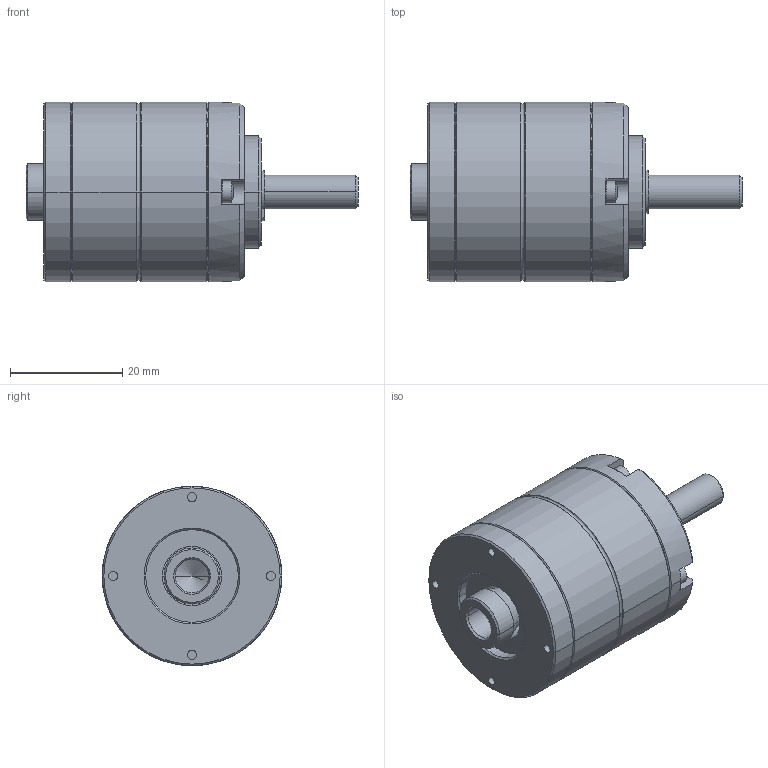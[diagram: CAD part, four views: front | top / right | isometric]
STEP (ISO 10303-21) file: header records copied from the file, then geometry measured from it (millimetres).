
FILE_DESCRIPTION((''),'2;1');
FILE_NAME('IMS32_PRO_2_STAGE_ASM','2024-09-02T13:25:32',('mhummel'),(''),'CREO PARAMETRIC BY PTC INC, 2020184','CREO PARAMETRIC BY PTC INC, 2020184','');
FILE_SCHEMA(('AUTOMOTIVE_DESIGN { 1 0 10303 214 1 1 1 1 }'));
Length unit declared in the file: millimetre
Products named in the file (14): IMS32_PRO_BEARING_FLANGE; IMS32_PRO_BALL_BEARING; IMS32_PRO_RETAINING_RING_J; IMS32_PRO_RING_GEAR_2_STAGE; IMS32_PRO_MOTOR_FLANGE; IMS32_PRO_SHIM_RING; IMS32_PRO_SHAFT_RAW_AF0; IMS32_PRO_SHAFT_ASM; IMS32_PRO_RETAINING_RING_A; IMS32_PRO_THRUST_WASHER_1_STAGE; IMS32_PRO_SCREW_2_STAGE; IMS32_PRO_PINION_LONG; IMS32_PRO_PINION_SHORT; IMS32_PRO_2_STAGE_ASM
Assembly tree (17 placements, depth 3):
  IMS32_PRO_2_STAGE_ASM
    IMS32_PRO_BEARING_FLANGE
    IMS32_PRO_BALL_BEARING  x2
    IMS32_PRO_RETAINING_RING_J
    IMS32_PRO_RING_GEAR_2_STAGE
    IMS32_PRO_MOTOR_FLANGE
    IMS32_PRO_SHIM_RING
    IMS32_PRO_SHAFT_ASM
      IMS32_PRO_SHAFT_RAW_AF0
    IMS32_PRO_RETAINING_RING_A
    IMS32_PRO_THRUST_WASHER_1_STAGE
    IMS32_PRO_SCREW_2_STAGE  x4
    IMS32_PRO_PINION_LONG
    IMS32_PRO_PINION_SHORT
Bounding box: 59.15 x 32 x 32 mm (x, y, z)
Volume: 21068.9 mm3; surface area: 17768.1 mm2
Topology: 20 solids, 22 shells, 460 faces, 1008 edges, 605 vertices
Faces by surface type: cylinder 198, plane 102, cone 92, torus 60, sphere 8
Entity records: 12172 total; most frequent: DIRECTION 1802, CARTESIAN_POINT 1546, ORIENTED_EDGE 1388, AXIS2_PLACEMENT_3D 768, PRESENTATION_STYLE_ASSIGNMENT 736, STYLED_ITEM 720, CURVE_STYLE 694, EDGE_CURVE 694
